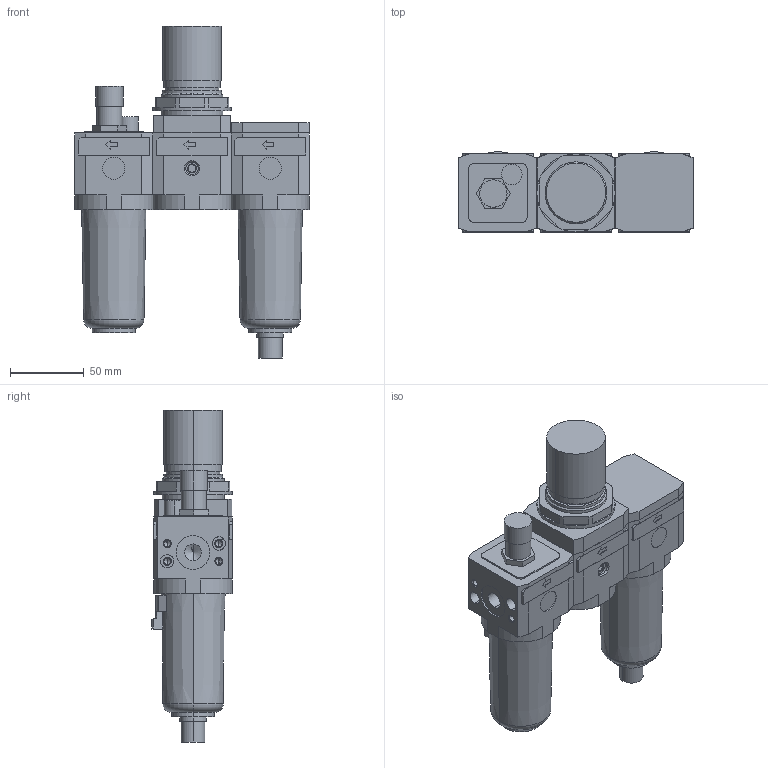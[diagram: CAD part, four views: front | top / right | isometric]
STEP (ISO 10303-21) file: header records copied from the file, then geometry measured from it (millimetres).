
FILE_DESCRIPTION((''),'2;1');
FILE_NAME('I:\DOC-EDP\Lib-3d\FRL\17207A_.stp','2003-06-16T14:55:34',('maffial1'),(''),'Autodesk Inventor 7','Autodesk Inventor 7','');
FILE_SCHEMA(('AUTOMOTIVE_DESIGN { 1 0 10303 214 1 1 1 1 }'));
Length unit declared in the file: millimetre
Products named in the file (7): 17207A_; 17201A_; 17203A; 17202A_; 17202A_(1); RS_1702_12; RK_1701_020
Assembly tree (6 placements, depth 3):
  17207A_
    17201A_
    17203A
    17202A_
      17202A_(1)
      RS_1702_12
      RK_1701_020
Bounding box: 159 x 54.39 x 225 mm (x, y, z)
Volume: 769723.9 mm3; surface area: 117436.5 mm2
Topology: 5 solids, 11 shells, 569 faces, 1405 edges, 877 vertices
Faces by surface type: plane 218, bspline 207, cylinder 98, cone 38, torus 8
Entity records: 18284 total; most frequent: CARTESIAN_POINT 5253, ORIENTED_EDGE 2714, DIRECTION 2526, EDGE_CURVE 1357, VECTOR 914, LINE 914, VERTEX_POINT 877, AXIS2_PLACEMENT_3D 806
